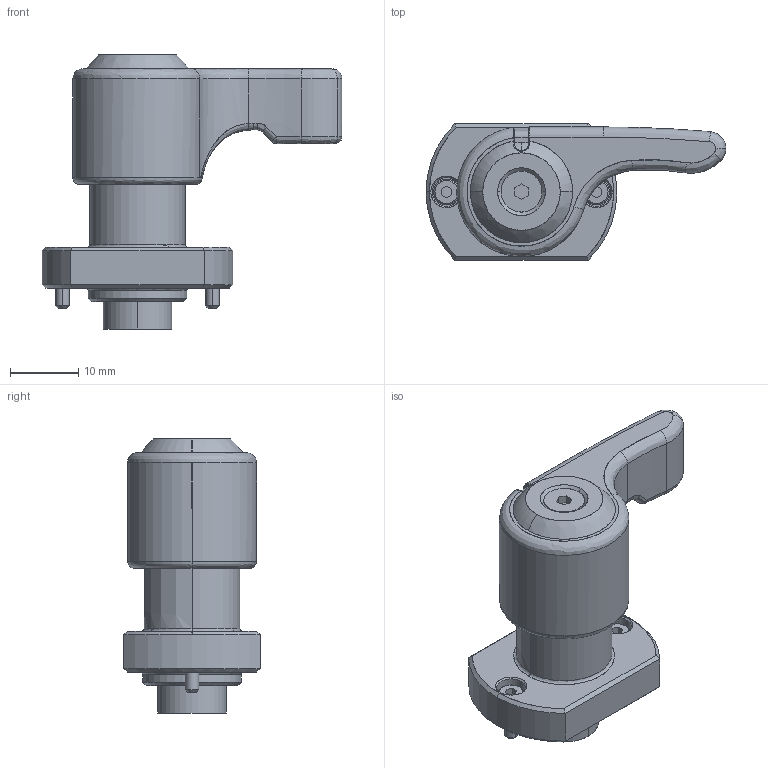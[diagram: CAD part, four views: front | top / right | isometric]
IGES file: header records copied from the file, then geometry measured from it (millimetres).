
Start section: SolidWorks IGES file using analytic representation for surfaces
Global section: file name: Y:\5.更新分\2023年対応\0405_諸々微修正分\QCPS0828-6-OG-D\qcps0828-6-og-d.IGS; native system: SolidWorks 2021; preprocessor: SolidWorks 2021; author: ImaoCorp; date: 230407.105527; units: millimetre
Bounding box: 44 x 20 x 40.21 mm (x, y, z)
Surface area: 7873 mm2 (no closed solid volume)
Topology: 0 solids, 0 shells, 372 faces, 3959 edges, 3949 vertices
Faces by surface type: bspline 209, revolution 163
